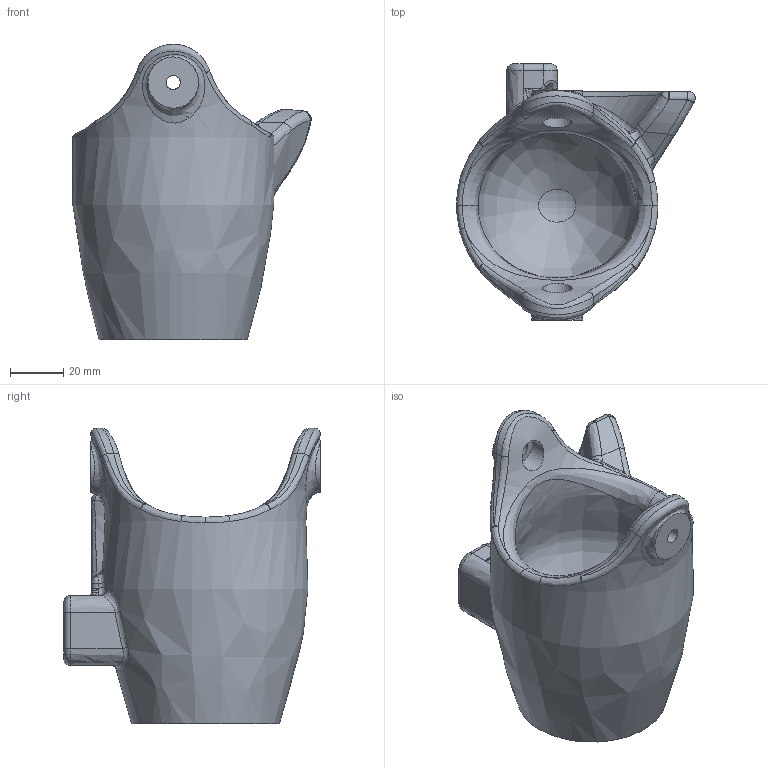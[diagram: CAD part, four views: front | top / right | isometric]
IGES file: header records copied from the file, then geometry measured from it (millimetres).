
Global section: file name: forearm cup_1; native system: Autodesk Inventor 2015; preprocessor: unknown; author: Jascha; date: 20140729.165139; units: inch
Bounding box: 89.88 x 96.53 x 111.2 mm (x, y, z)
Volume: 244791.9 mm3; surface area: 43318.1 mm2
Topology: 1 solids, 1 shells, 146 faces, 349 edges, 208 vertices
Faces by surface type: bspline 146
